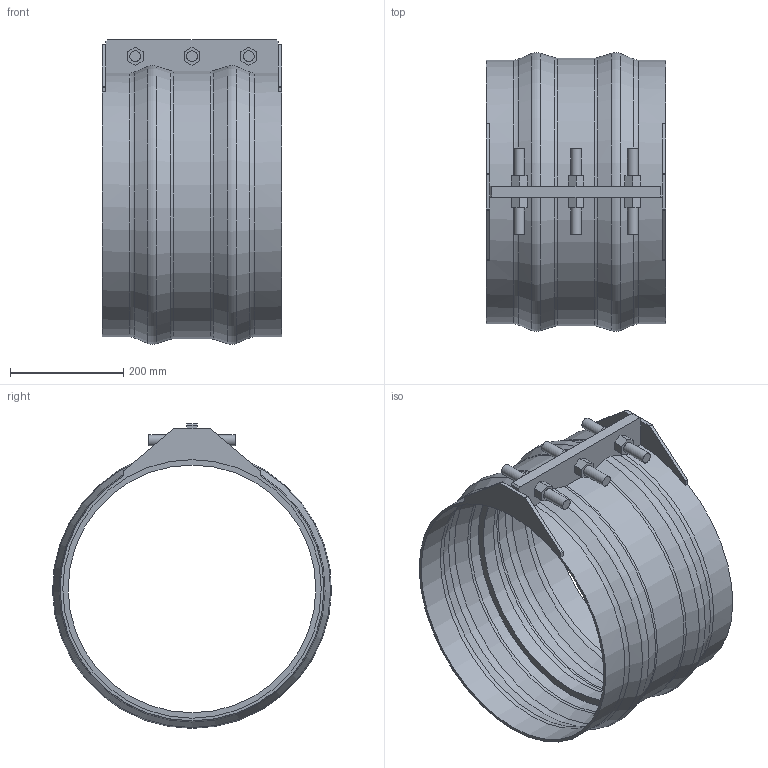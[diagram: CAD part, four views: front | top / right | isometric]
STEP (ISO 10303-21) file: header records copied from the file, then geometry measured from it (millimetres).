
FILE_DESCRIPTION(/* description */ ('VIC SS RESTRAINED COUPLING STYLE 233S (FLEX) (BRD)','CAx-IF Rec.Pracs.---Representation and Presentation of Product Manufacturing Information (PMI)---4.0---2014-10-13'),/* implementation_level */ '2;1');
FILE_NAME(/* name */ 'C:\Users\kkamble\AppData\Roaming\Autodesk\ApplicationPlugins\Back Up\Victaulic_VBSP_Coupling Flexible Restrained_Style 233S (BRD)\Victaulic_VBSP_Coupling Flexible Restrained_Style 233S (BRD)_200psi_18 (450).stp',/* time_stamp */ '2020-09-22T18:28:43+06:00',/* author */ ('Vjadhav'),/* organization */ ('Victaulic'),/* preprocessor_version */ 'ST-DEVELOPER v17.2',/* originating_system */ 'Autodesk Inventor 2019',/* authorisation */ '');
FILE_SCHEMA (('AP242_MANAGED_MODEL_BASED_3D_ENGINEERING_MIM_LF { 1 0 10303 442 1 1 4 }'));
Length unit declared in the file: inch
Products named in the file (1): Style_233S_Type_2_200psi-18.0
Bounding box: 317.5 x 493.32 x 539.12 mm (x, y, z)
Volume: 3336008.2 mm3; surface area: 1103305.4 mm2
Topology: 1 solids, 1 shells, 115 faces, 309 edges, 210 vertices
Faces by surface type: plane 73, cylinder 22, torus 12, cone 8
Full cylindrical faces by diameter (mm): 19.05 x6, 438.15 x1, 457.2 x2, 463.55 x2
Entity records: 3970 total; most frequent: CARTESIAN_POINT 764, DIRECTION 645, ORIENTED_EDGE 618, EDGE_CURVE 309, AXIS2_PLACEMENT_3D 227, VERTEX_POINT 210, LINE 191, VECTOR 191
